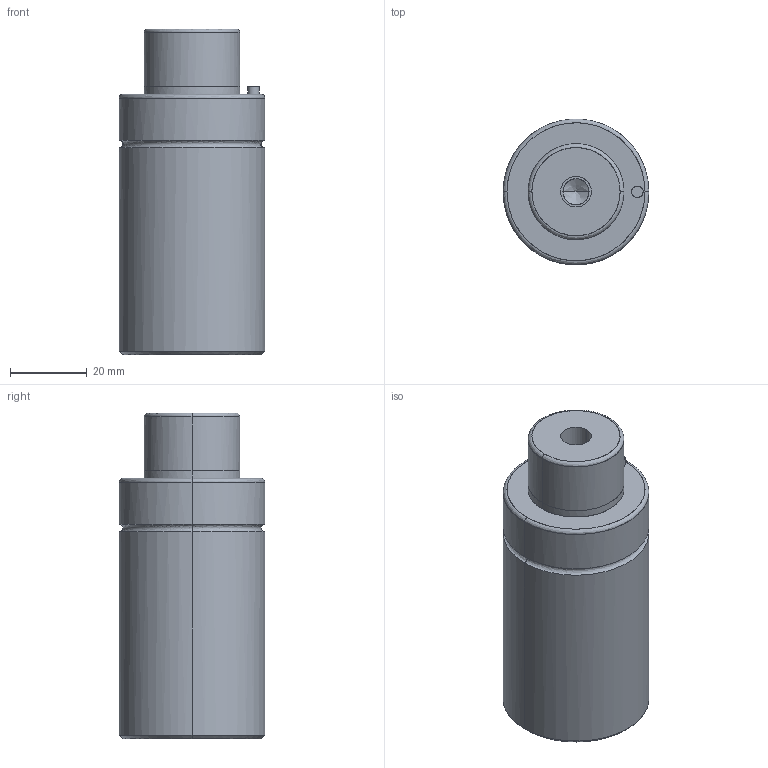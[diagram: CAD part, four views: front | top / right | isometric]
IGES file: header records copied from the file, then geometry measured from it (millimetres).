
Global section: file name: E:\UnigraphicsGraphicData\MISUMI_PRESS-PARTS\IGES\3d_gsm38-15_03929_r00.igs; native system: NX V5.0; preprocessor: UGS NX IGES V5.0; author: MISUMI; date: 20110105.160812; units: millimetre
Bounding box: 38 x 37.91 x 85 mm (x, y, z)
Surface area: 12698.6 mm2 (no closed solid volume)
Topology: 0 solids, 0 shells, 50 faces, 328 edges, 320 vertices
Faces by surface type: bspline 50
